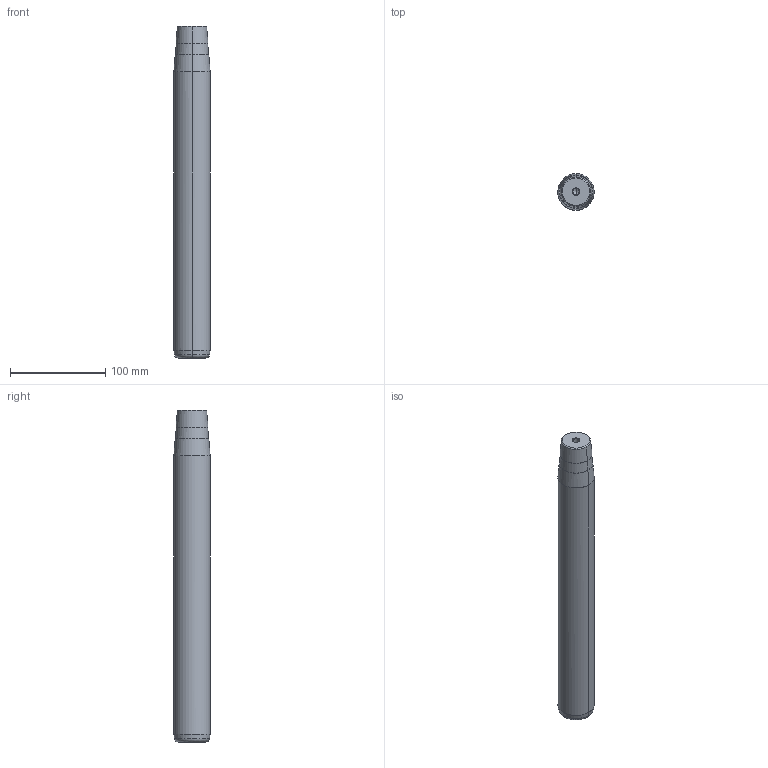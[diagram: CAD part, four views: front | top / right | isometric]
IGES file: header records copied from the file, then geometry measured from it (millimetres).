
Start section: START RECORD GO HERE.
Global section: file name: 722-38x315x348.igs; native system: DASSAULT SYSTEMES CATIA V5 R20 - www.3ds.com; preprocessor: CATIA Version 5 Release 20 ; author: Utente; organization: NB04-ASUS; date: 20210108.165959; units: millimetre
Bounding box: 38 x 38 x 348 mm (x, y, z)
Surface area: 43671.9 mm2 (no closed solid volume)
Topology: 0 solids, 0 shells, 32 faces, 192 edges, 188 vertices
Faces by surface type: revolution 30, plane 2
